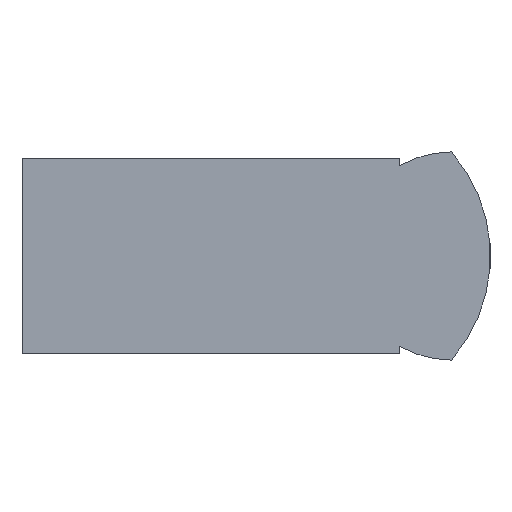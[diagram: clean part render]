
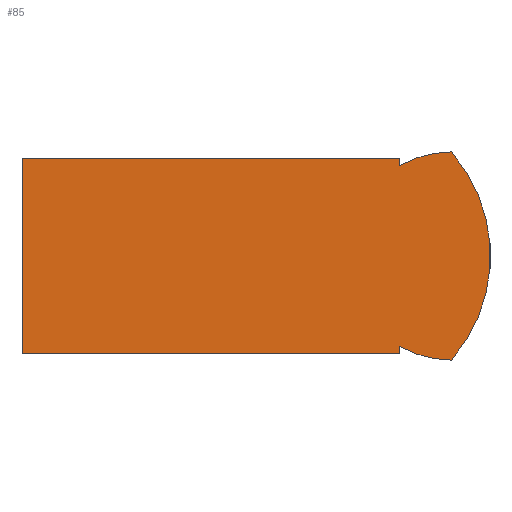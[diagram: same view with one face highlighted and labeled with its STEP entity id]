
A CAD part, left-side view. The second image highlights one B-rep face of the part: STEP entity #85.
In plain terms, the highlighted planar face has unit normal (-1, 0, 0).
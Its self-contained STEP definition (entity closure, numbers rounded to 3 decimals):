
#85 = ADVANCED_FACE( '', ( #169 ), #170, .F. );
#169 = FACE_OUTER_BOUND( '', #244, .T. );
#170 = PLANE( '', #245 );
#244 = EDGE_LOOP( '', ( #412, #413, #414, #415, #416, #417, #418, #419 ) );
#245 = AXIS2_PLACEMENT_3D( '', #420, #421, #422 );
#412 = ORIENTED_EDGE( '', *, *, #478, .F. );
#413 = ORIENTED_EDGE( '', *, *, #435, .T. );
#414 = ORIENTED_EDGE( '', *, *, #474, .T. );
#415 = ORIENTED_EDGE( '', *, *, #471, .F. );
#416 = ORIENTED_EDGE( '', *, *, #467, .F. );
#417 = ORIENTED_EDGE( '', *, *, #484, .T. );
#418 = ORIENTED_EDGE( '', *, *, #476, .F. );
#419 = ORIENTED_EDGE( '', *, *, #444, .F. );
#420 = CARTESIAN_POINT( '', ( -6., -28.416, 0. ) );
#421 = DIRECTION( '', ( 1., 0., 0. ) );
#422 = DIRECTION( '', ( 0., 0., -1. ) );
#435 = EDGE_CURVE( '', #510, #511, #512, .T. );
#444 = EDGE_CURVE( '', #525, #526, #527, .T. );
#467 = EDGE_CURVE( '', #559, #557, #561, .T. );
#471 = EDGE_CURVE( '', #557, #566, #567, .T. );
#474 = EDGE_CURVE( '', #511, #566, #570, .T. );
#476 = EDGE_CURVE( '', #526, #572, #573, .T. );
#478 = EDGE_CURVE( '', #510, #525, #575, .T. );
#484 = EDGE_CURVE( '', #559, #572, #583, .T. );
#510 = VERTEX_POINT( '', #617 );
#511 = VERTEX_POINT( '', #618 );
#512 = LINE( '', #619, #620 );
#525 = VERTEX_POINT( '', #639 );
#526 = VERTEX_POINT( '', #640 );
#527 = CIRCLE( '', #641, 12.167 );
#557 = VERTEX_POINT( '', #681 );
#559 = VERTEX_POINT( '', #684 );
#561 = LINE( '', #687, #688 );
#566 = VERTEX_POINT( '', #693 );
#567 = LINE( '', #694, #695 );
#570 = LINE( '', #699, #700 );
#572 = VERTEX_POINT( '', #702 );
#573 = CIRCLE( '', #703, 8. );
#575 = CIRCLE( '', #706, 8. );
#583 = LINE( '', #714, #715 );
#617 = CARTESIAN_POINT( '', ( -6., -29., 6.928 ) );
#618 = CARTESIAN_POINT( '', ( -6., -29., 7.5 ) );
#619 = CARTESIAN_POINT( '', ( -6., -29., -7.5 ) );
#620 = VECTOR( '', #733, 1000. );
#639 = CARTESIAN_POINT( '', ( -6., -33., 8. ) );
#640 = CARTESIAN_POINT( '', ( -6., -33., -8. ) );
#641 = AXIS2_PLACEMENT_3D( '', #740, #741, #742 );
#681 = CARTESIAN_POINT( '', ( -6., 0., -7.5 ) );
#684 = CARTESIAN_POINT( '', ( -6., -29., -7.5 ) );
#687 = CARTESIAN_POINT( '', ( -6., -29., -7.5 ) );
#688 = VECTOR( '', #767, 1000. );
#693 = CARTESIAN_POINT( '', ( -6., 0., 7.5 ) );
#694 = CARTESIAN_POINT( '', ( -6., 0., -7.5 ) );
#695 = VECTOR( '', #771, 1000. );
#699 = CARTESIAN_POINT( '', ( -6., -29., 7.5 ) );
#700 = VECTOR( '', #773, 1000. );
#702 = CARTESIAN_POINT( '', ( -6., -29., -6.928 ) );
#703 = AXIS2_PLACEMENT_3D( '', #774, #775, #776 );
#706 = AXIS2_PLACEMENT_3D( '', #778, #779, #780 );
#714 = CARTESIAN_POINT( '', ( -6., -29., -7.5 ) );
#715 = VECTOR( '', #790, 1000. );
#733 = DIRECTION( '', ( 0., 0., 1. ) );
#740 = CARTESIAN_POINT( '', ( -6., -23.833, 0. ) );
#741 = DIRECTION( '', ( 1., 0., 0. ) );
#742 = DIRECTION( '', ( 0., 0., -1. ) );
#767 = DIRECTION( '', ( 0., 1., 0. ) );
#771 = DIRECTION( '', ( 0., 0., 1. ) );
#773 = DIRECTION( '', ( 0., 1., 0. ) );
#774 = CARTESIAN_POINT( '', ( -6., -33., 0. ) );
#775 = DIRECTION( '', ( 1., 0., 0. ) );
#776 = DIRECTION( '', ( 0., 0., -1. ) );
#778 = CARTESIAN_POINT( '', ( -6., -33., 0. ) );
#779 = DIRECTION( '', ( 1., 0., 0. ) );
#780 = DIRECTION( '', ( 0., 0., -1. ) );
#790 = DIRECTION( '', ( 0., 0., 1. ) );
